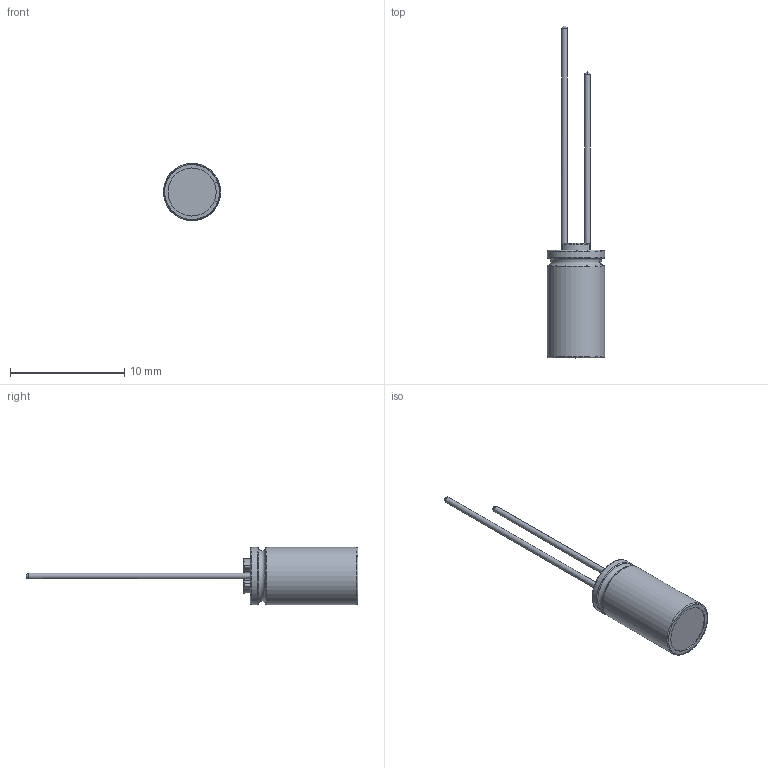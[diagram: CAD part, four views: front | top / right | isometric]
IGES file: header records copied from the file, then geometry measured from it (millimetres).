
Start section: JAMA-IS VERSION  1.0
Bounding box: 4.99 x 29 x 5 mm (x, y, z)
Surface area: 559.3 mm2 (no closed solid volume)
Topology: 0 solids, 0 shells, 79 faces, 971 edges, 960 vertices
Faces by surface type: bspline 79
